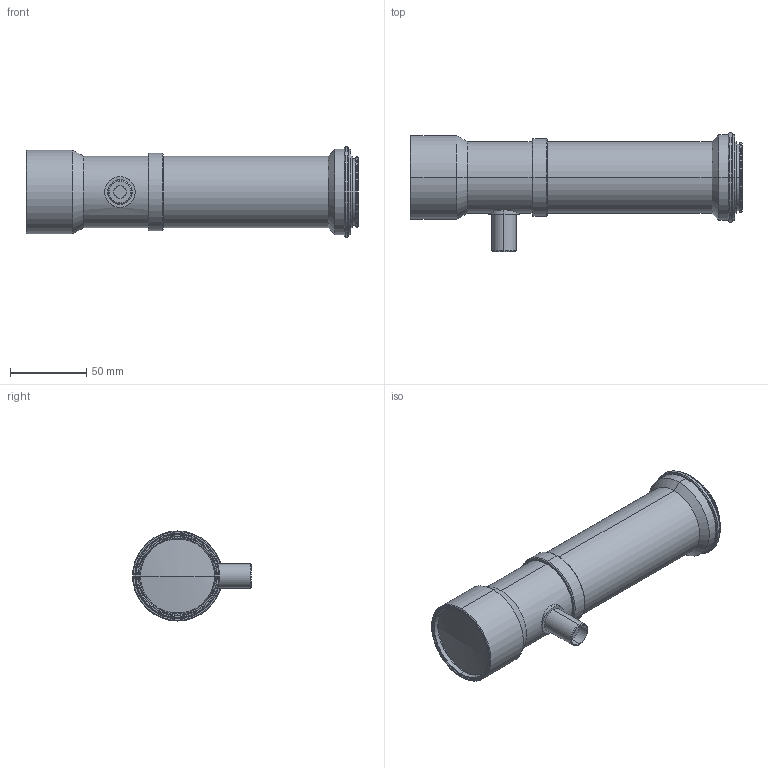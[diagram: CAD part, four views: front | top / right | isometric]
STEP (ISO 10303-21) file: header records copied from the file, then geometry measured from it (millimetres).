
FILE_DESCRIPTION (( 'STEP AP203' ), '1' );
FILE_NAME ('VS-LTC2-70CO_FSN.STEP', '2018-05-15T02:51:03', ( '' ), ( '' ), 'SwSTEP 2.0', 'SolidWorks 2017', '' );
FILE_SCHEMA (( 'CONFIG_CONTROL_DESIGN' ));
Length unit declared in the file: millimetre
Products named in the file (1): VS-LTC2-70CO_FSN
Bounding box: 217.63 x 78 x 59 mm (x, y, z)
Volume: 313396.3 mm3; surface area: 52575.9 mm2
Topology: 1 solids, 1 shells, 112 faces, 226 edges, 136 vertices
Faces by surface type: cylinder 46, cone 42, plane 20, sphere 4
Entity records: 3101 total; most frequent: DIRECTION 586, CARTESIAN_POINT 569, ORIENTED_EDGE 452, AXIS2_PLACEMENT_3D 249, EDGE_CURVE 226, CIRCLE 136, VERTEX_POINT 136, EDGE_LOOP 132
